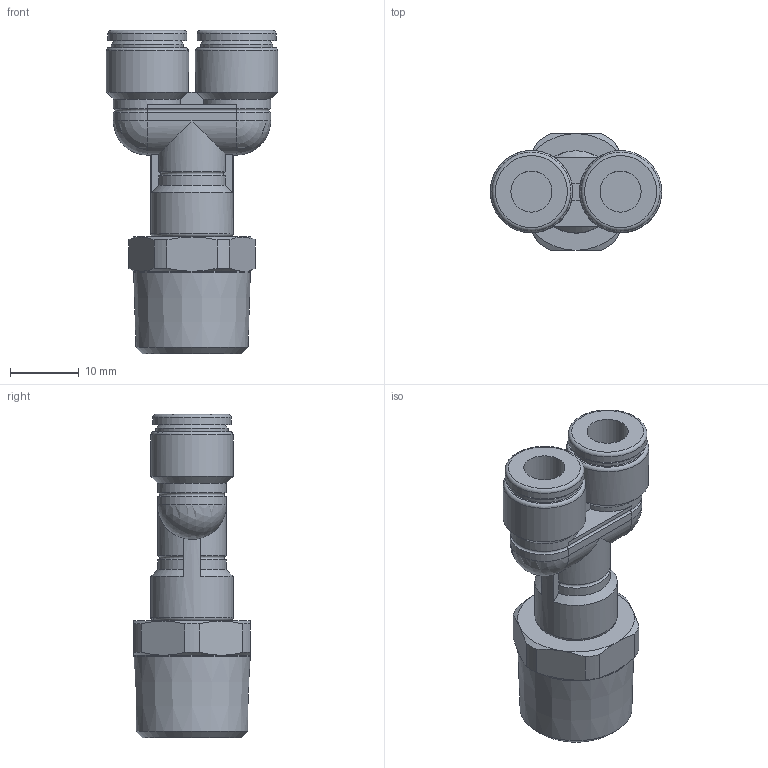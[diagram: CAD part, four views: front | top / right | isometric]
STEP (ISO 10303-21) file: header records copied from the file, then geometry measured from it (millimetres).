
FILE_DESCRIPTION(/* description */ (''),/* implementation_level */ '2;1');
FILE_NAME(/* name */ 'E:\2013年度版　3D-DATA\【02】 TOUCH CONNECTOR FIVE SUS\[04] MALE BRANCH Y\[07] FS6-03MY FS6-03MYW.stp',/* time_stamp */ '2013-08-06T16:57:17+09:00',/* author */ ('takahashi-pc2'),/* organization */ (''),/* preprocessor_version */ 'ST-DEVELOPER v15.2',/* originating_system */ 'Autodesk Inventor 2014',/* authorisation */ '');
FILE_SCHEMA (('AUTOMOTIVE_DESIGN { 1 0 10303 214 3 1 1 }'));
Length unit declared in the file: millimetre
Products named in the file (1): [07] FS6-03MY FS6-03MYW
Bounding box: 25 x 17 x 47.1 mm (x, y, z)
Volume: 7895.7 mm3; surface area: 3819.6 mm2
Topology: 1 solids, 1 shells, 88 faces, 203 edges, 120 vertices
Faces by surface type: plane 29, cylinder 28, cone 20, torus 9, sphere 2
Full cylindrical faces by diameter (mm): 6 x2, 10.5 x2, 11.5 x2, 12 x3, 17 x1
Entity records: 2357 total; most frequent: CARTESIAN_POINT 521, DIRECTION 398, ORIENTED_EDGE 350, EDGE_CURVE 175, AXIS2_PLACEMENT_3D 172, VERTEX_POINT 115, EDGE_LOOP 114, ADVANCED_FACE 88
